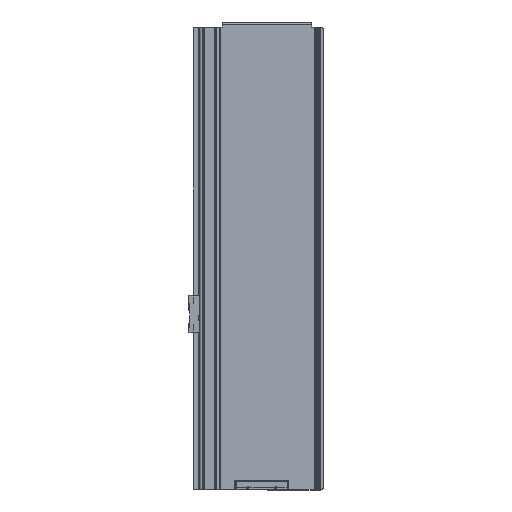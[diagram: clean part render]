
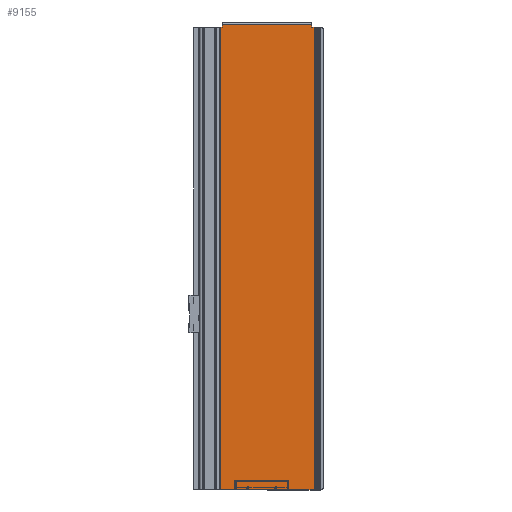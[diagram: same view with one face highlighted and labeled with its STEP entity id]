
A CAD part, left-side view. The second image highlights one B-rep face of the part: STEP entity #9155.
In plain terms, the highlighted planar face has unit normal (-1, 0, 0) as drawn and (1, 0, 0) by its records, which use the part's own axes.
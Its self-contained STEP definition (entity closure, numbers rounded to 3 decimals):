
#271=PLANE('',#9974);
#758=LINE('',#14771,#1502);
#763=LINE('',#14786,#1507);
#768=LINE('',#14795,#1512);
#769=LINE('',#14798,#1513);
#806=LINE('',#14923,#1550);
#824=LINE('',#14971,#1568);
#825=LINE('',#14974,#1569);
#826=LINE('',#14975,#1570);
#1502=VECTOR('',#11856,10.);
#1507=VECTOR('',#11871,10.);
#1512=VECTOR('',#11878,10.);
#1513=VECTOR('',#11881,10.);
#1550=VECTOR('',#11988,10.);
#1568=VECTOR('',#12042,10.);
#1569=VECTOR('',#12045,10.);
#1570=VECTOR('',#12046,10.);
#2243=FACE_OUTER_BOUND('',#2805,.T.);
#2805=EDGE_LOOP('',(#7184,#7185,#7186,#7187,#7188,#7189,#7190,#7191));
#3986=VERTEX_POINT('',#14767);
#3987=VERTEX_POINT('',#14769);
#3992=VERTEX_POINT('',#14785);
#3995=VERTEX_POINT('',#14793);
#3996=VERTEX_POINT('',#14797);
#4049=VERTEX_POINT('',#14921);
#4061=VERTEX_POINT('',#14969);
#4062=VERTEX_POINT('',#14973);
#5063=EDGE_CURVE('',#3986,#3987,#758,.T.);
#5070=EDGE_CURVE('',#3992,#3986,#763,.T.);
#5075=EDGE_CURVE('',#3987,#3995,#768,.T.);
#5076=EDGE_CURVE('',#3996,#3992,#769,.T.);
#5139=EDGE_CURVE('',#3995,#4049,#806,.T.);
#5163=EDGE_CURVE('',#4061,#4049,#824,.T.);
#5164=EDGE_CURVE('',#4062,#4061,#825,.T.);
#5165=EDGE_CURVE('',#4062,#3996,#826,.T.);
#7184=ORIENTED_EDGE('',*,*,#5164,.F.);
#7185=ORIENTED_EDGE('',*,*,#5165,.T.);
#7186=ORIENTED_EDGE('',*,*,#5076,.T.);
#7187=ORIENTED_EDGE('',*,*,#5070,.T.);
#7188=ORIENTED_EDGE('',*,*,#5063,.T.);
#7189=ORIENTED_EDGE('',*,*,#5075,.T.);
#7190=ORIENTED_EDGE('',*,*,#5139,.T.);
#7191=ORIENTED_EDGE('',*,*,#5163,.F.);
#9155=ADVANCED_FACE('',(#2243),#271,.F.);
#9974=AXIS2_PLACEMENT_3D('',#14972,#12043,#12044);
#11856=DIRECTION('',(0.,-1.,0.));
#11871=DIRECTION('',(0.,0.,1.));
#11878=DIRECTION('',(0.,0.,-1.));
#11881=DIRECTION('',(0.,-1.,0.));
#11988=DIRECTION('',(0.,-1.,0.));
#12042=DIRECTION('',(0.,0.,1.));
#12043=DIRECTION('center_axis',(-1.,0.,0.));
#12044=DIRECTION('ref_axis',(0.,-1.,0.));
#12045=DIRECTION('',(0.,-1.,0.));
#12046=DIRECTION('',(0.,0.,1.));
#14767=CARTESIAN_POINT('',(4.9,113.,445.6));
#14769=CARTESIAN_POINT('',(4.9,27.5,445.6));
#14771=CARTESIAN_POINT('',(4.9,113.,445.6));
#14785=CARTESIAN_POINT('',(4.9,113.,443.));
#14786=CARTESIAN_POINT('',(4.9,113.,443.));
#14793=CARTESIAN_POINT('',(4.9,27.5,443.));
#14795=CARTESIAN_POINT('',(4.9,27.5,443.));
#14797=CARTESIAN_POINT('',(4.9,115.342,443.));
#14798=CARTESIAN_POINT('',(4.9,115.342,443.));
#14921=CARTESIAN_POINT('',(4.9,25.9,443.));
#14923=CARTESIAN_POINT('',(4.9,115.342,443.));
#14969=CARTESIAN_POINT('',(4.9,25.9,0.));
#14971=CARTESIAN_POINT('',(4.9,25.9,0.));
#14972=CARTESIAN_POINT('Origin',(4.9,115.342,0.));
#14973=CARTESIAN_POINT('',(4.9,115.342,0.));
#14974=CARTESIAN_POINT('',(4.9,115.342,0.));
#14975=CARTESIAN_POINT('',(4.9,115.342,0.));
